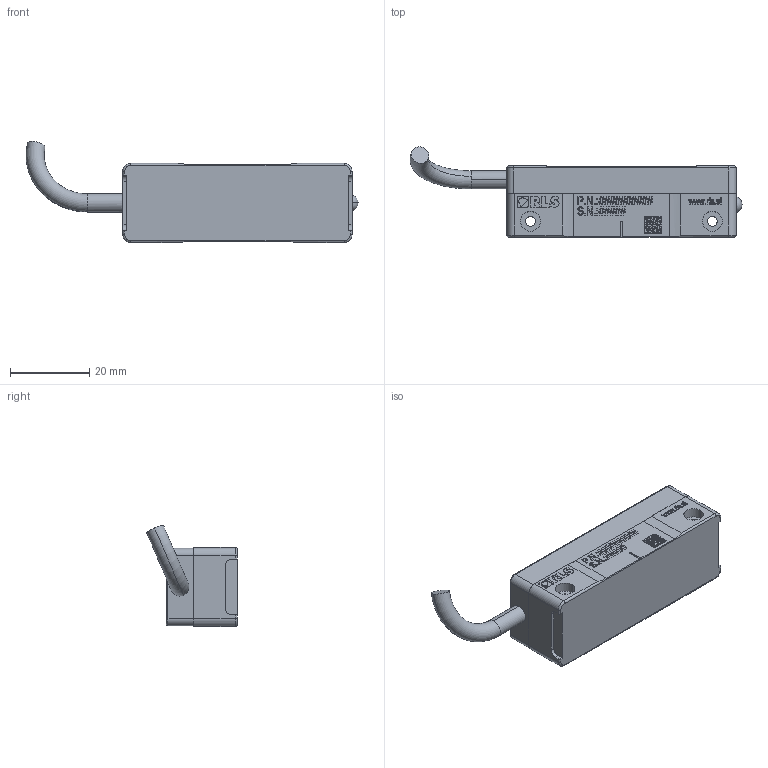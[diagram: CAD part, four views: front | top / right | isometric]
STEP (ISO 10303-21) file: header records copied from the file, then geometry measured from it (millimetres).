
FILE_DESCRIPTION (( 'STEP AP214' ), '1' );
FILE_NAME ('DHRx.STEP', '2024-01-17T13:52:43', ( '' ), ( '' ), 'SwSTEP 2.0', 'SolidWorks 2022', '' );
FILE_SCHEMA (( 'AUTOMOTIVE_DESIGN' ));
Length unit declared in the file: millimetre
Products named in the file (1): DHRx
Bounding box: 83.99 x 22.85 x 25.55 mm (x, y, z)
Volume: 20445.8 mm3; surface area: 6163.9 mm2
Topology: 1 solids, 1 shells, 1299 faces, 3546 edges, 2335 vertices
Faces by surface type: plane 1071, bspline 100, cylinder 92, torus 18, cone 16, sphere 2
Entity records: 45023 total; most frequent: CARTESIAN_POINT 11593, ORIENTED_EDGE 7070, DIRECTION 6012, EDGE_CURVE 3535, VECTOR 3050, LINE 3050, VERTEX_POINT 2334, AXIS2_PLACEMENT_3D 1481
